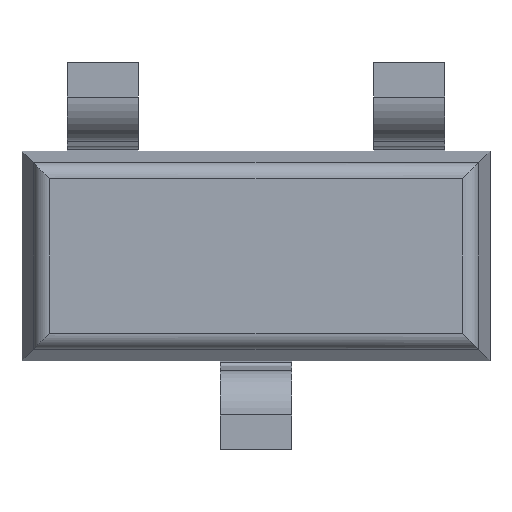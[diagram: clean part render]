
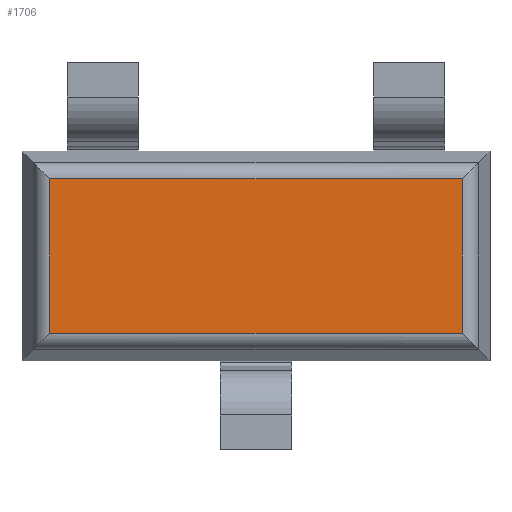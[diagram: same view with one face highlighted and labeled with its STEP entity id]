
A CAD part, front view. The second image highlights one B-rep face of the part: STEP entity #1706.
In plain terms, the highlighted planar face has unit normal (0, -1, 0).
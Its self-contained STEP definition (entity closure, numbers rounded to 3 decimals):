
#1667 = CARTESIAN_POINT ( 'NONE',  ( 1.278, 0.13, -0.478 ) ) ;
#1668 = VERTEX_POINT ( 'NONE', #1667 ) ;
#1669 = CARTESIAN_POINT ( 'NONE',  ( 1.278, 0.13, 0.478 ) ) ;
#1670 = VERTEX_POINT ( 'NONE', #1669 ) ;
#1671 = CARTESIAN_POINT ( 'NONE',  ( 1.278, 0.13, 0. ) ) ;
#1672 = DIRECTION ( 'NONE',  ( 0., 0., 1. ) ) ;
#1673 = VECTOR ( 'NONE', #1672, 1000. ) ;
#1674 = LINE ( 'NONE', #1671, #1673 ) ;
#1675 = EDGE_CURVE ( 'NONE', #1668, #1670, #1674, .T. ) ;
#1676 = ORIENTED_EDGE ( 'NONE', *, *, #1675, .T. ) ;
#1677 = CARTESIAN_POINT ( 'NONE',  ( -1.278, 0.13, 0.478 ) ) ;
#1678 = VERTEX_POINT ( 'NONE', #1677 ) ;
#1679 = CARTESIAN_POINT ( 'NONE',  ( 0., 0.13, 0.478 ) ) ;
#1680 = DIRECTION ( 'NONE',  ( -1., 0., 0. ) ) ;
#1681 = VECTOR ( 'NONE', #1680, 1000. ) ;
#1682 = LINE ( 'NONE', #1679, #1681 ) ;
#1683 = EDGE_CURVE ( 'NONE', #1670, #1678, #1682, .T. ) ;
#1684 = ORIENTED_EDGE ( 'NONE', *, *, #1683, .T. ) ;
#1685 = CARTESIAN_POINT ( 'NONE',  ( -1.278, 0.13, -0.478 ) ) ;
#1686 = VERTEX_POINT ( 'NONE', #1685 ) ;
#1687 = CARTESIAN_POINT ( 'NONE',  ( -1.278, 0.13, 0. ) ) ;
#1688 = DIRECTION ( 'NONE',  ( 0., 0., -1. ) ) ;
#1689 = VECTOR ( 'NONE', #1688, 1000. ) ;
#1690 = LINE ( 'NONE', #1687, #1689 ) ;
#1691 = EDGE_CURVE ( 'NONE', #1678, #1686, #1690, .T. ) ;
#1692 = ORIENTED_EDGE ( 'NONE', *, *, #1691, .T. ) ;
#1693 = CARTESIAN_POINT ( 'NONE',  ( 0., 0.13, -0.478 ) ) ;
#1694 = DIRECTION ( 'NONE',  ( 1., 0., 0. ) ) ;
#1695 = VECTOR ( 'NONE', #1694, 1000. ) ;
#1696 = LINE ( 'NONE', #1693, #1695 ) ;
#1697 = EDGE_CURVE ( 'NONE', #1686, #1668, #1696, .T. ) ;
#1698 = ORIENTED_EDGE ( 'NONE', *, *, #1697, .T. ) ;
#1699 = EDGE_LOOP ( 'NONE', ( #1676, #1684, #1692, #1698 ) ) ;
#1700 = FACE_OUTER_BOUND ( 'NONE', #1699, .T. ) ;
#1701 = CARTESIAN_POINT ( 'NONE',  ( 0., 0.13, 0. ) ) ;
#1702 = DIRECTION ( 'NONE',  ( 0., -1., 0. ) ) ;
#1703 = DIRECTION ( 'NONE',  ( 0., 0., -1. ) ) ;
#1704 = AXIS2_PLACEMENT_3D ( 'NONE', #1701, #1702, #1703 ) ;
#1705 = PLANE ( 'NONE', #1704 ) ;
#1706 = ADVANCED_FACE ( 'NONE', ( #1700 ), #1705, .T. ) ;
